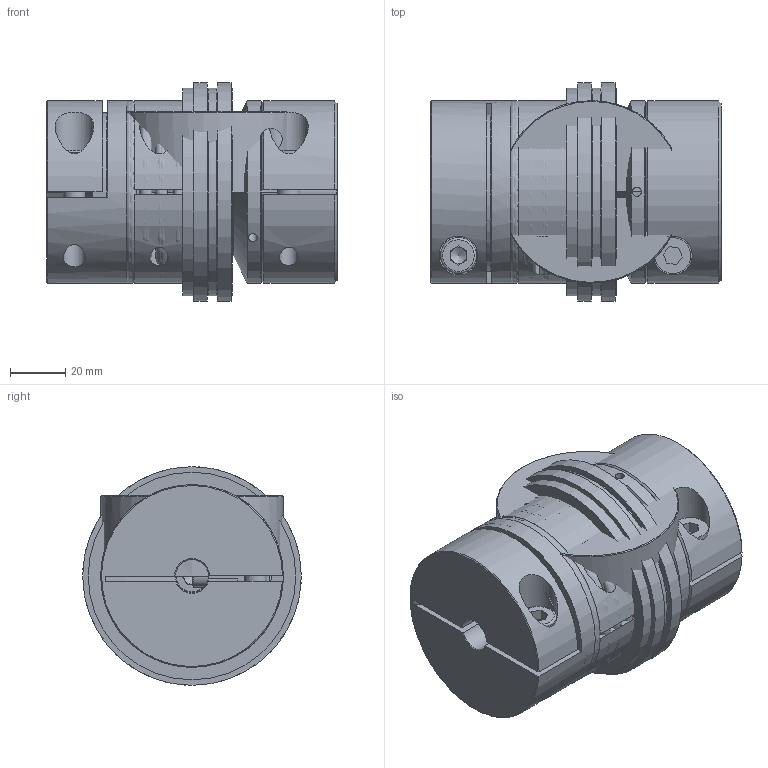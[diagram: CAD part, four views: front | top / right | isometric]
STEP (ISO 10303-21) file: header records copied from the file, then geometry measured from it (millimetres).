
FILE_DESCRIPTION( ( 'Unknown' ), '1' );
FILE_NAME( 'C:/Dokumente und Einstellungen/SKarpstein/Desktop/Korrigierte 3D Modelle/KBK-BKK-60-105.stp', 'Unknown', ( 'Unknown' ), ( 'Unknown' ), 'XStep 1.0', 'Unknown', ' ' );
FILE_SCHEMA( ( 'automotive_design' ) );
Length unit declared in the file: millimetre
Products named in the file (11): Assem1; Assem2; Zylinderschraube DIN 912_4; Stellring 60; Druckring 60; KBK L-K-60 Grundkörper; Klemmnabe 60; Flansch BK60; KN60_Standard_2; Socket Head Cap Screw_DIN_DIN 912 M8 x 25 --- 25N_2; BK60_Standard_0
Bounding box: 105 x 79 x 79 mm (x, y, z)
Volume: 586272.7 mm3; surface area: 228635.2 mm2
Topology: 19 solids, 19 shells, 337 faces, 696 edges, 455 vertices
Faces by surface type: plane 162, cylinder 90, cone 45, torus 40
Full cylindrical faces by diameter (mm): 3.242 x6, 4 x6, 6.647 x2, 8 x7, 8.5 x4, 12 x2, 13 x5, 14 x4, 15 x2, 32 x2, 33 x2, 35 x4, 42 x2, 46 x4, 46.5 x2, 47 x2, 56.3 x4, 57.3 x4, 61.3 x2, 66 x4, 75 x4, 79 x2
Entity records: 4977 total; most frequent: CARTESIAN_POINT 1291, DIRECTION 709, ORIENTED_EDGE 496, AXIS2_PLACEMENT_3D 315, EDGE_LOOP 286, EDGE_CURVE 248, FACE_OUTER_BOUND 219, VERTEX_POINT 203
